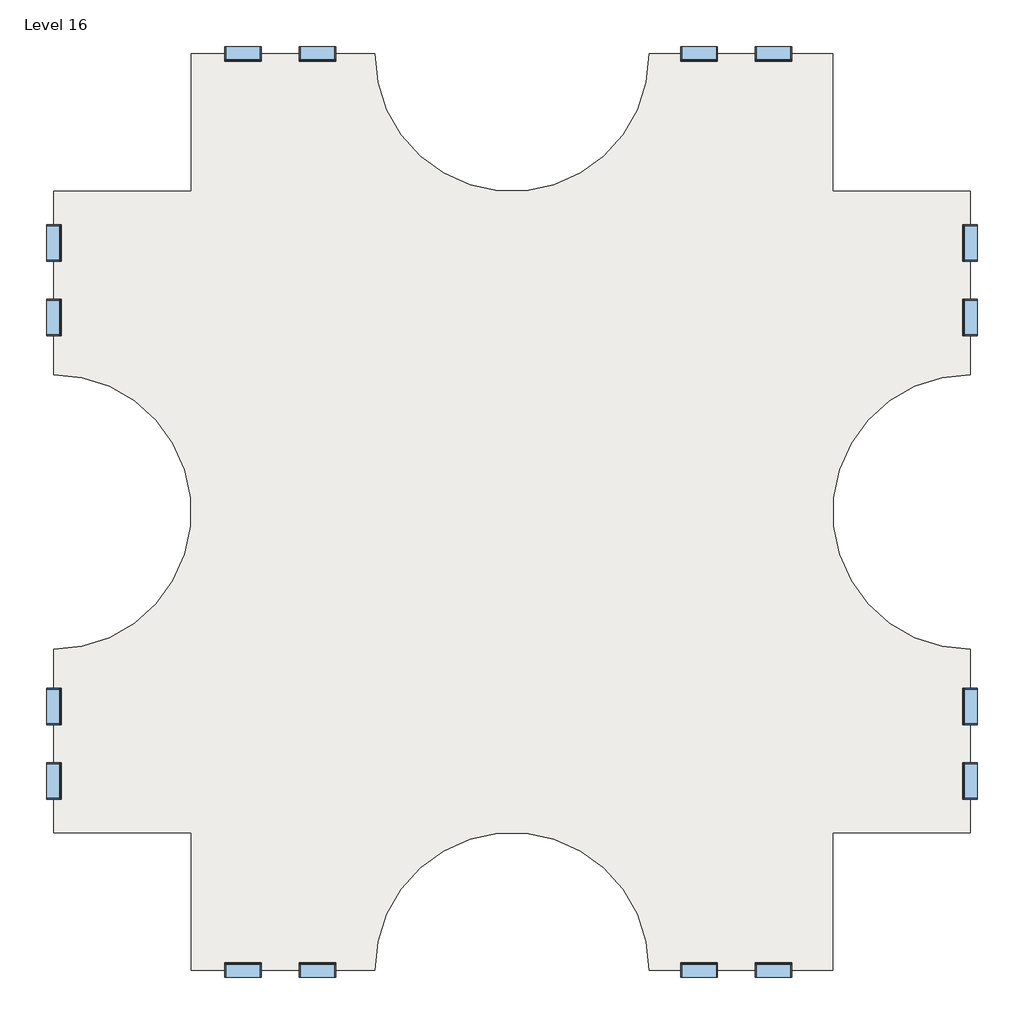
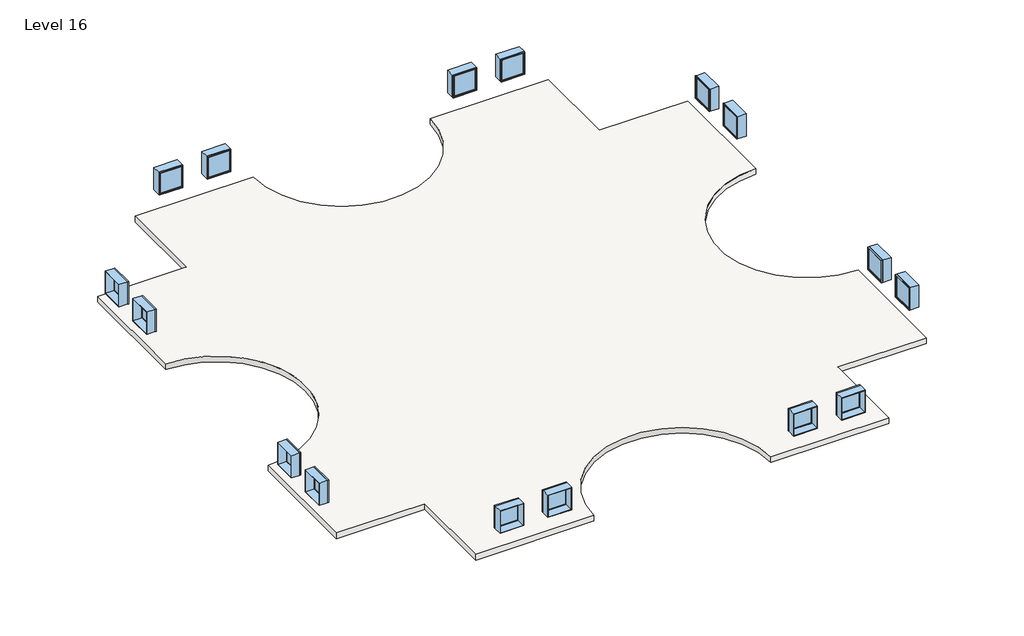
# One storey: 16 windows, 2 slabs.
"""IFC4 building model written with IfcOpenShell, lengths in millimetres."""

from ifc_helpers import new_model, si_unit, point, frame, frame_2d, origin, place, context, project, spatial, polyline, circle_curve, trimmed, segment, composite_curve, outline, extrude, transform, mapped, element, save
from components import window_d0035ecf, window_d434eb62

model = new_model("IFC4")

# Units and contexts
model_context = context("Model", 3, world=origin())
ifc_project = project(units=[si_unit("LENGTHUNIT", "METRE", prefix="MILLI")], contexts=[model_context])

# Site, building, storey
site = spatial("IfcSite", under=ifc_project)
building = spatial("IfcBuilding", under=site)
storey = spatial("IfcBuildingStorey", under=building, Name="Level 16", Elevation=45720.0)

# Slabs
placement = place(None, origin())
element("IfcSlab", 1, ObjectType="Generic - 12\"", at=placement, inside=storey, context=model_context, shape_type="SweptSolid", body=[
    extrude(outline(composite_curve([segment(polyline([(-7150.3629456, 4479.6634547), (-7150.3629456, 9051.6634547), (-1054.3629456, 9051.6634547)]), True, "CONTINUOUS"), segment(trimmed(circle_curve(frame_2d((3517.6370544, 9051.6634547)), 4572.0), [point((-1054.3629456, 9051.6634547))], [point((8089.6370544, 9051.6634547))], True, "CARTESIAN"), True, "CONTINUOUS"), segment(polyline([(8089.6370544, 9051.6634547), (14185.6370544, 9051.6634547), (14185.6370544, 4479.6634547), (18757.6370544, 4479.6634547), (18757.6370544, -1616.3365453)]), True, "CONTINUOUS"), segment(trimmed(circle_curve(frame_2d((18757.6370544, -6188.3365453)), 4572.0), [point((18757.6370544, -1616.3365453))], [point((18757.6370544, -10760.3365453))], True, "CARTESIAN"), True, "CONTINUOUS"), segment(polyline([(18757.6370544, -10760.3365453), (18757.6370544, -16856.3365453), (14185.6370544, -16856.3365453), (14185.6370544, -21428.3365453), (8089.6370544, -21428.3365453)]), True, "CONTINUOUS"), segment(trimmed(circle_curve(frame_2d((3517.6370544, -21428.3365453)), 4572.0), [point((8089.6370544, -21428.3365453))], [point((-1054.3629456, -21428.3365453))], True, "CARTESIAN"), True, "CONTINUOUS"), segment(polyline([(-1054.3629456, -21428.3365453), (-7150.3629456, -21428.3365453), (-7150.3629456, -16856.3365453), (-11722.3629456, -16856.3365453), (-11722.3629456, -10760.3365453)]), True, "CONTINUOUS"), segment(trimmed(circle_curve(frame_2d((-11722.3629456, -6188.3365453)), 4572.0), [point((-11722.3629456, -10760.3365453))], [point((-11722.3629456, -1616.3365453))], True, "CARTESIAN"), True, "CONTINUOUS"), segment(polyline([(-11722.3629456, -1616.3365453), (-11722.3629456, 4479.6634547), (-7150.3629456, 4479.6634547)]), True, "CONTINUOUS")], self_intersect=False)), frame((0.0, 0.0, 45415.2), z_axis=(0.0, 0.0, 1.0), x_axis=(1.0, 0.0, 0.0)), (0.0, 0.0, 1.0), 304.8),
])
element("IfcSlab", 2, ObjectType="Generic - 12\"", at=placement, inside=storey, context=model_context, shape_type="SweptSolid", body=[
    extrude(outline(composite_curve([segment(polyline([(-7150.3629456, 4479.6634547), (-7150.3629456, 9051.6634547), (-1054.3629456, 9051.6634547)]), True, "CONTINUOUS"), segment(trimmed(circle_curve(frame_2d((3517.6370544, 9051.6634547)), 4572.0), [point((-1054.3629456, 9051.6634547))], [point((8089.6370544, 9051.6634547))], True, "CARTESIAN"), True, "CONTINUOUS"), segment(polyline([(8089.6370544, 9051.6634547), (14185.6370544, 9051.6634547), (14185.6370544, 4479.6634547), (18757.6370544, 4479.6634547), (18757.6370544, -1616.3365453)]), True, "CONTINUOUS"), segment(trimmed(circle_curve(frame_2d((18757.6370544, -6188.3365453)), 4572.0), [point((18757.6370544, -1616.3365453))], [point((18757.6370544, -10760.3365453))], True, "CARTESIAN"), True, "CONTINUOUS"), segment(polyline([(18757.6370544, -10760.3365453), (18757.6370544, -16856.3365453), (14185.6370544, -16856.3365453), (14185.6370544, -21428.3365453), (8089.6370544, -21428.3365453)]), True, "CONTINUOUS"), segment(trimmed(circle_curve(frame_2d((3517.6370544, -21428.3365453)), 4572.0), [point((8089.6370544, -21428.3365453))], [point((-1054.3629456, -21428.3365453))], True, "CARTESIAN"), True, "CONTINUOUS"), segment(polyline([(-1054.3629456, -21428.3365453), (-7150.3629456, -21428.3365453), (-7150.3629456, -16856.3365453), (-11722.3629456, -16856.3365453), (-11722.3629456, -10760.3365453)]), True, "CONTINUOUS"), segment(trimmed(circle_curve(frame_2d((-11722.3629456, -6188.3365453)), 4572.0), [point((-11722.3629456, -10760.3365453))], [point((-11722.3629456, -1616.3365453))], True, "CARTESIAN"), True, "CONTINUOUS"), segment(polyline([(-11722.3629456, -1616.3365453), (-11722.3629456, 4479.6634547), (-7150.3629456, 4479.6634547)]), True, "CONTINUOUS")], self_intersect=False)), frame((0.0, 0.0, 45415.2), z_axis=(0.0, 0.0, 1.0), x_axis=(1.0, 0.0, 0.0)), (0.0, 0.0, 1.0), 304.8),
])

# Windows
window_shape = window_d0035ecf(model_context)
element("IfcWindow", 3, ObjectType="Fixed : 48\" x 48\"", at=placement, inside=storey, context=model_context, shape_type="MappedRepresentation", body=[
    mapped(window_shape, transform((-11719.1879456, 247.3884547, 45720.0), x_axis=(0.0, -1.0, 0.0), y_axis=(1.0, 0.0, 0.0), z_axis=(0.0, 0.0, 1.0))),
])
element("IfcWindow", 4, ObjectType="Fixed : 48\" x 48\"", at=placement, inside=storey, context=model_context, shape_type="MappedRepresentation", body=[
    mapped(window_shape, transform((-5469.1993281, 9048.4884547, 45720.0), x_axis=(-1.0, 0.0, 0.0), y_axis=(0.0, -1.0, 0.0), z_axis=(0.0, 0.0, 1.0))),
])
element("IfcWindow", 5, ObjectType="Fixed : 48\" x 48\"", at=placement, inside=storey, context=model_context, shape_type="MappedRepresentation", body=[
    mapped(window_shape, transform((-11719.1879456, -15175.1729277, 45720.0), x_axis=(0.0, -1.0, 0.0), y_axis=(1.0, 0.0, 0.0), z_axis=(0.0, 0.0, 1.0))),
])
element("IfcWindow", 6, ObjectType="Fixed : 48\" x 48\"", at=placement, inside=storey, context=model_context, shape_type="MappedRepresentation", body=[
    mapped(window_shape, transform((-2918.0879456, -21425.1615453, 45720.0), x_axis=(1.0, 0.0, 0.0), y_axis=(0.0, 1.0, 0.0), z_axis=(0.0, 0.0, 1.0))),
])
element("IfcWindow", 7, ObjectType="Fixed : 48\" x 48\"", at=placement, inside=storey, context=model_context, shape_type="MappedRepresentation", body=[
    mapped(window_shape, transform((18754.4620544, 2798.4998372, 45720.0), x_axis=(0.0, 1.0, 0.0), y_axis=(-1.0, 0.0, 0.0), z_axis=(0.0, 0.0, 1.0))),
])
element("IfcWindow", 8, ObjectType="Fixed : 48\" x 48\"", at=placement, inside=storey, context=model_context, shape_type="MappedRepresentation", body=[
    mapped(window_shape, transform((9705.7120544, 9048.4884547, 45720.0), x_axis=(-1.0, 0.0, 0.0), y_axis=(0.0, -1.0, 0.0), z_axis=(0.0, 0.0, 1.0))),
])
element("IfcWindow", 9, ObjectType="Fixed : 48\" x 48\"", at=placement, inside=storey, context=model_context, shape_type="MappedRepresentation", body=[
    mapped(window_shape, transform((18754.4620544, -12624.0615453, 45720.0), x_axis=(0.0, 1.0, 0.0), y_axis=(-1.0, 0.0, 0.0), z_axis=(0.0, 0.0, 1.0))),
])
element("IfcWindow", 10, ObjectType="Fixed : 48\" x 48\"", at=placement, inside=storey, context=model_context, shape_type="MappedRepresentation", body=[
    mapped(window_shape, transform((12256.8234368, -21425.1615453, 45720.0), x_axis=(1.0, 0.0, 0.0), y_axis=(0.0, 1.0, 0.0), z_axis=(0.0, 0.0, 1.0))),
])
window_2_shape = window_d434eb62(model_context)
element("IfcWindow", 11, ObjectType="Fixed : 48\" x 48\"", at=placement, inside=storey, context=model_context, shape_type="MappedRepresentation", body=[
    mapped(window_2_shape, transform((-11719.1879456, 2798.4998372, 45720.0), x_axis=(0.0, 1.0, 0.0), y_axis=(-1.0, 0.0, 0.0), z_axis=(0.0, 0.0, 1.0))),
])
element("IfcWindow", 12, ObjectType="Fixed : 48\" x 48\"", at=placement, inside=storey, context=model_context, shape_type="MappedRepresentation", body=[
    mapped(window_2_shape, transform((-2918.0879456, 9048.4884547, 45720.0), x_axis=(1.0, 0.0, 0.0), y_axis=(0.0, 1.0, 0.0), z_axis=(0.0, 0.0, 1.0))),
])
element("IfcWindow", 13, ObjectType="Fixed : 48\" x 48\"", at=placement, inside=storey, context=model_context, shape_type="MappedRepresentation", body=[
    mapped(window_2_shape, transform((-11719.1879456, -12624.0615453, 45720.0), x_axis=(0.0, 1.0, 0.0), y_axis=(-1.0, 0.0, 0.0), z_axis=(0.0, 0.0, 1.0))),
])
element("IfcWindow", 14, ObjectType="Fixed : 48\" x 48\"", at=placement, inside=storey, context=model_context, shape_type="MappedRepresentation", body=[
    mapped(window_2_shape, transform((-5469.1993281, -21425.1615453, 45720.0), x_axis=(-1.0, 0.0, 0.0), y_axis=(0.0, -1.0, 0.0), z_axis=(0.0, 0.0, 1.0))),
])
element("IfcWindow", 15, ObjectType="Fixed : 48\" x 48\"", at=placement, inside=storey, context=model_context, shape_type="MappedRepresentation", body=[
    mapped(window_2_shape, transform((18754.4620544, 247.3884547, 45720.0), x_axis=(0.0, -1.0, 0.0), y_axis=(1.0, 0.0, 0.0), z_axis=(0.0, 0.0, 1.0))),
])
element("IfcWindow", 16, ObjectType="Fixed : 48\" x 48\"", at=placement, inside=storey, context=model_context, shape_type="MappedRepresentation", body=[
    mapped(window_2_shape, transform((12256.8234368, 9048.4884547, 45720.0), x_axis=(1.0, 0.0, 0.0), y_axis=(0.0, 1.0, 0.0), z_axis=(0.0, 0.0, 1.0))),
])
element("IfcWindow", 17, ObjectType="Fixed : 48\" x 48\"", at=placement, inside=storey, context=model_context, shape_type="MappedRepresentation", body=[
    mapped(window_2_shape, transform((18754.4620544, -15175.1729277, 45720.0), x_axis=(0.0, -1.0, 0.0), y_axis=(1.0, 0.0, 0.0), z_axis=(0.0, 0.0, 1.0))),
])
element("IfcWindow", 18, ObjectType="Fixed : 48\" x 48\"", at=placement, inside=storey, context=model_context, shape_type="MappedRepresentation", body=[
    mapped(window_2_shape, transform((9705.7120544, -21425.1615453, 45720.0), x_axis=(-1.0, 0.0, 0.0), y_axis=(0.0, -1.0, 0.0), z_axis=(0.0, 0.0, 1.0))),
])

save(model, "model.ifc")
